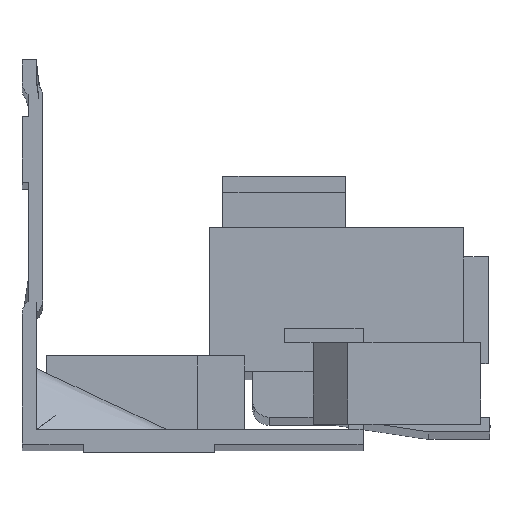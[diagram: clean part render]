
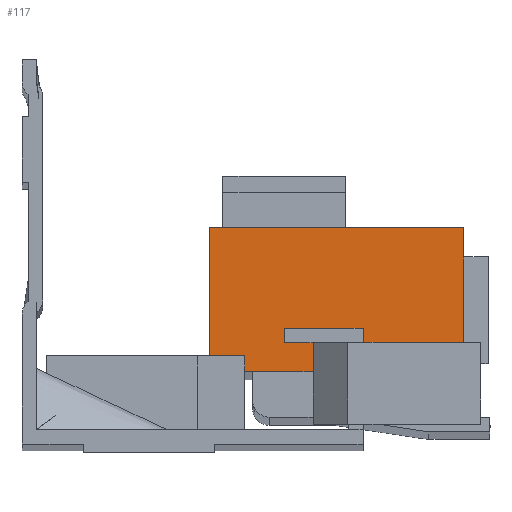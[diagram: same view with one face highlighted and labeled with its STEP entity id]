
A CAD part, front view. The second image highlights one B-rep face of the part: STEP entity #117.
In plain terms, the highlighted planar face has unit normal (0, -1, 0).
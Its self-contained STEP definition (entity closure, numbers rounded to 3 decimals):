
#117 = ADVANCED_FACE ( 'NONE', ( #3234 ), #148, .F. ) ;
#148 = PLANE ( 'NONE',  #3873 ) ;
#149 = CARTESIAN_POINT ( 'NONE',  ( 49.9, -20., -27.058 ) ) ;
#150 = DIRECTION ( 'NONE',  ( 0., 1., 0. ) ) ;
#151 = DIRECTION ( 'NONE',  ( 1., 0., 0. ) ) ;
#1034 = CARTESIAN_POINT ( 'NONE',  ( 53.9, -20., -9.558 ) ) ;
#1035 = DIRECTION ( 'NONE',  ( 1., 0., 0. ) ) ;
#1056 = CARTESIAN_POINT ( 'NONE',  ( 53.9, -20., -29.558 ) ) ;
#1057 = DIRECTION ( 'NONE',  ( 0., 0., -1. ) ) ;
#1070 = CARTESIAN_POINT ( 'NONE',  ( 49.9, -20., -23.558 ) ) ;
#1071 = DIRECTION ( 'NONE',  ( 1., 0., 0. ) ) ;
#1465 = LINE ( 'NONE', #1034, #1466 ) ;
#1466 = VECTOR ( 'NONE', #1035, 1000. ) ;
#1487 = LINE ( 'NONE', #1056, #1488 ) ;
#1488 = VECTOR ( 'NONE', #1057, 1000. ) ;
#1501 = LINE ( 'NONE', #1070, #1502 ) ;
#1502 = VECTOR ( 'NONE', #1071, 1000. ) ;
#1733 = LINE ( 'NONE', #4046, #1734 ) ;
#1734 = VECTOR ( 'NONE', #4047, 1000. ) ;
#1735 = LINE ( 'NONE', #4048, #1736 ) ;
#1736 = VECTOR ( 'NONE', #4049, 1000. ) ;
#1737 = LINE ( 'NONE', #4050, #1738 ) ;
#1738 = VECTOR ( 'NONE', #4051, 1000. ) ;
#1739 = LINE ( 'NONE', #4052, #1740 ) ;
#1740 = VECTOR ( 'NONE', #4053, 1000. ) ;
#1741 = LINE ( 'NONE', #4054, #1742 ) ;
#1742 = VECTOR ( 'NONE', #4055, 1000. ) ;
#1743 = LINE ( 'NONE', #4056, #1744 ) ;
#1744 = VECTOR ( 'NONE', #4057, 1000. ) ;
#1745 = LINE ( 'NONE', #4058, #1746 ) ;
#1746 = VECTOR ( 'NONE', #4059, 1000. ) ;
#1747 = LINE ( 'NONE', #4060, #1748 ) ;
#1748 = VECTOR ( 'NONE', #4061, 1000. ) ;
#1761 = LINE ( 'NONE', #4074, #1762 ) ;
#1762 = VECTOR ( 'NONE', #4075, 1000. ) ;
#2225 = EDGE_CURVE ( 'NONE', #4793, #4834, #1465, .T. ) ;
#2236 = EDGE_CURVE ( 'NONE', #4834, #4839, #1487, .T. ) ;
#2243 = EDGE_CURVE ( 'NONE', #4705, #4839, #1501, .T. ) ;
#2884 = EDGE_LOOP ( 'NONE', ( #3054, #3052, #3048, #3074, #3073, #3072, #3071, #3070, #3069, #3068, #3067, #3066 ) ) ;
#3048 = ORIENTED_EDGE ( 'NONE', *, *, #3742, .T. ) ;
#3052 = ORIENTED_EDGE ( 'NONE', *, *, #3743, .F. ) ;
#3054 = ORIENTED_EDGE ( 'NONE', *, *, #3744, .F. ) ;
#3066 = ORIENTED_EDGE ( 'NONE', *, *, #3737, .F. ) ;
#3067 = ORIENTED_EDGE ( 'NONE', *, *, #3738, .F. ) ;
#3068 = ORIENTED_EDGE ( 'NONE', *, *, #3739, .F. ) ;
#3069 = ORIENTED_EDGE ( 'NONE', *, *, #2225, .F. ) ;
#3070 = ORIENTED_EDGE ( 'NONE', *, *, #2236, .F. ) ;
#3071 = ORIENTED_EDGE ( 'NONE', *, *, #2243, .T. ) ;
#3072 = ORIENTED_EDGE ( 'NONE', *, *, #3751, .T. ) ;
#3073 = ORIENTED_EDGE ( 'NONE', *, *, #3740, .T. ) ;
#3074 = ORIENTED_EDGE ( 'NONE', *, *, #3741, .T. ) ;
#3234 = FACE_OUTER_BOUND ( 'NONE', #2884, .T. ) ;
#3737 = EDGE_CURVE ( 'NONE', #4728, #4718, #1733, .T. ) ;
#3738 = EDGE_CURVE ( 'NONE', #4718, #4699, #1735, .T. ) ;
#3739 = EDGE_CURVE ( 'NONE', #4699, #4793, #1737, .T. ) ;
#3740 = EDGE_CURVE ( 'NONE', #4726, #4701, #1739, .T. ) ;
#3741 = EDGE_CURVE ( 'NONE', #4729, #4726, #1741, .T. ) ;
#3742 = EDGE_CURVE ( 'NONE', #4730, #4729, #1743, .T. ) ;
#3743 = EDGE_CURVE ( 'NONE', #4730, #4702, #1745, .T. ) ;
#3744 = EDGE_CURVE ( 'NONE', #4702, #4728, #1747, .T. ) ;
#3751 = EDGE_CURVE ( 'NONE', #4701, #4705, #1761, .T. ) ;
#3873 = AXIS2_PLACEMENT_3D ( 'NONE', #149, #150, #151 ) ;
#4046 = CARTESIAN_POINT ( 'NONE',  ( 27.15, -20., -27.058 ) ) ;
#4047 = DIRECTION ( 'NONE',  ( 0., 0., 1. ) ) ;
#4048 = CARTESIAN_POINT ( 'NONE',  ( 49.9, -20., -25.181 ) ) ;
#4049 = DIRECTION ( 'NONE',  ( -1., 0., 0. ) ) ;
#4050 = CARTESIAN_POINT ( 'NONE',  ( 22.9, -20., -27.058 ) ) ;
#4051 = DIRECTION ( 'NONE',  ( 0., 0., 1. ) ) ;
#4052 = CARTESIAN_POINT ( 'NONE',  ( 41.6, -20., -21.858 ) ) ;
#4053 = DIRECTION ( 'NONE',  ( 1., 0., 0. ) ) ;
#4054 = CARTESIAN_POINT ( 'NONE',  ( 32., -20., -21.831 ) ) ;
#4055 = DIRECTION ( 'NONE',  ( 0., 0., 1. ) ) ;
#4056 = CARTESIAN_POINT ( 'NONE',  ( 32., -20., -23.608 ) ) ;
#4057 = DIRECTION ( 'NONE',  ( -1., 0., 0. ) ) ;
#4058 = CARTESIAN_POINT ( 'NONE',  ( 35.5, -20., -27.058 ) ) ;
#4059 = DIRECTION ( 'NONE',  ( 0., 0., -1. ) ) ;
#4060 = CARTESIAN_POINT ( 'NONE',  ( 49.9, -20., -27.058 ) ) ;
#4061 = DIRECTION ( 'NONE',  ( -1., 0., 0. ) ) ;
#4074 = CARTESIAN_POINT ( 'NONE',  ( 41.6, -20., -35.931 ) ) ;
#4075 = DIRECTION ( 'NONE',  ( 0., 0., -1. ) ) ;
#4368 = CARTESIAN_POINT ( 'NONE',  ( 22.9, -20., -25.181 ) ) ;
#4370 = CARTESIAN_POINT ( 'NONE',  ( 41.6, -20., -21.858 ) ) ;
#4371 = CARTESIAN_POINT ( 'NONE',  ( 35.5, -20., -27.058 ) ) ;
#4374 = CARTESIAN_POINT ( 'NONE',  ( 41.6, -20., -23.558 ) ) ;
#4387 = CARTESIAN_POINT ( 'NONE',  ( 27.15, -20., -25.181 ) ) ;
#4395 = CARTESIAN_POINT ( 'NONE',  ( 32., -20., -21.858 ) ) ;
#4397 = CARTESIAN_POINT ( 'NONE',  ( 27.15, -20., -27.058 ) ) ;
#4398 = CARTESIAN_POINT ( 'NONE',  ( 32., -20., -23.608 ) ) ;
#4399 = CARTESIAN_POINT ( 'NONE',  ( 35.5, -20., -23.608 ) ) ;
#4462 = CARTESIAN_POINT ( 'NONE',  ( 22.9, -20., -9.558 ) ) ;
#4503 = CARTESIAN_POINT ( 'NONE',  ( 53.9, -20., -9.558 ) ) ;
#4508 = CARTESIAN_POINT ( 'NONE',  ( 53.9, -20., -23.558 ) ) ;
#4699 = VERTEX_POINT ( 'NONE', #4368 ) ;
#4701 = VERTEX_POINT ( 'NONE', #4370 ) ;
#4702 = VERTEX_POINT ( 'NONE', #4371 ) ;
#4705 = VERTEX_POINT ( 'NONE', #4374 ) ;
#4718 = VERTEX_POINT ( 'NONE', #4387 ) ;
#4726 = VERTEX_POINT ( 'NONE', #4395 ) ;
#4728 = VERTEX_POINT ( 'NONE', #4397 ) ;
#4729 = VERTEX_POINT ( 'NONE', #4398 ) ;
#4730 = VERTEX_POINT ( 'NONE', #4399 ) ;
#4793 = VERTEX_POINT ( 'NONE', #4462 ) ;
#4834 = VERTEX_POINT ( 'NONE', #4503 ) ;
#4839 = VERTEX_POINT ( 'NONE', #4508 ) ;
